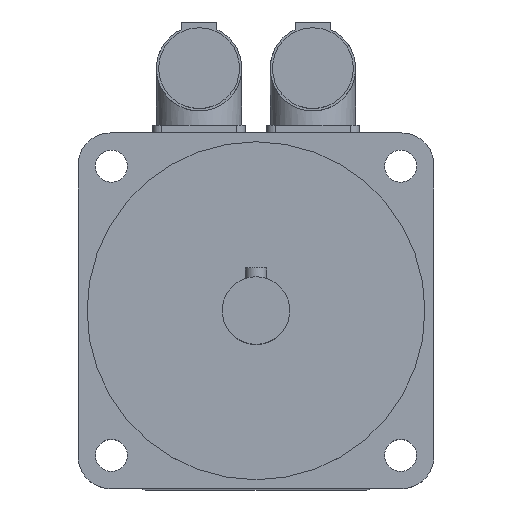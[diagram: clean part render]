
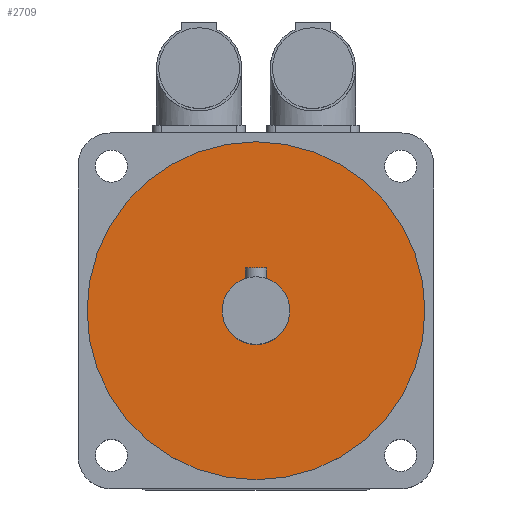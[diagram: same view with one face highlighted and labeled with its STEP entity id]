
A CAD part, top view. The second image highlights one B-rep face of the part: STEP entity #2709.
In plain terms, the highlighted planar face has unit normal (0, 0, 1).
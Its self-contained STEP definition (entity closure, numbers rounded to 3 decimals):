
#44=FACE_BOUND('',#455,.T.);
#72=CIRCLE('',#2874,9.5);
#73=CIRCLE('',#2877,47.5);
#289=FACE_OUTER_BOUND('',#454,.T.);
#454=EDGE_LOOP('',(#1842));
#455=EDGE_LOOP('',(#1843));
#1150=VERTEX_POINT('',#4096);
#1151=VERTEX_POINT('',#4100);
#1420=EDGE_CURVE('',#1150,#1150,#72,.T.);
#1421=EDGE_CURVE('',#1151,#1151,#73,.T.);
#1842=ORIENTED_EDGE('',*,*,#1421,.T.);
#1843=ORIENTED_EDGE('',*,*,#1420,.T.);
#2629=PLANE('',#2879);
#2709=ADVANCED_FACE('',(#289,#44),#2629,.F.);
#2874=AXIS2_PLACEMENT_3D('',#4097,#3197,#3198);
#2877=AXIS2_PLACEMENT_3D('',#4101,#3203,#3204);
#2879=AXIS2_PLACEMENT_3D('',#4104,#3207,#3208);
#3197=DIRECTION('center_axis',(0.,0.,-1.));
#3198=DIRECTION('ref_axis',(-1.,0.,0.));
#3203=DIRECTION('center_axis',(0.,0.,
1.));
#3204=DIRECTION('ref_axis',(-1.,0.,0.));
#3207=DIRECTION('center_axis',(0.,0.,-1.));
#3208=DIRECTION('ref_axis',(-1.,0.,0.));
#4096=CARTESIAN_POINT('',(9.5,0.,206.));
#4097=CARTESIAN_POINT('Origin',(0.,0.,
206.));
#4100=CARTESIAN_POINT('',(47.5,0.,206.));
#4101=CARTESIAN_POINT('Origin',(0.,0.,
206.));
#4104=CARTESIAN_POINT('Origin',(0.,0.,
206.));
